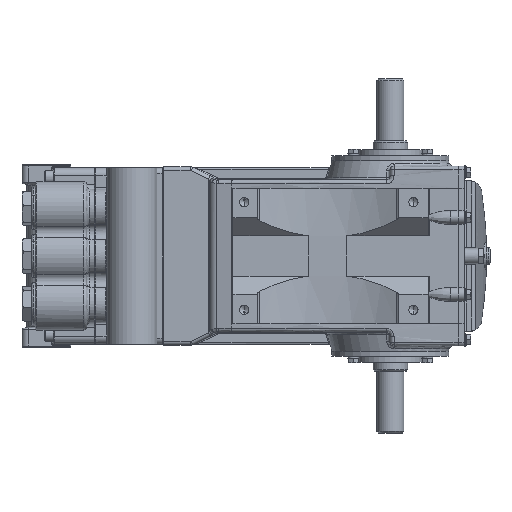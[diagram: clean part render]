
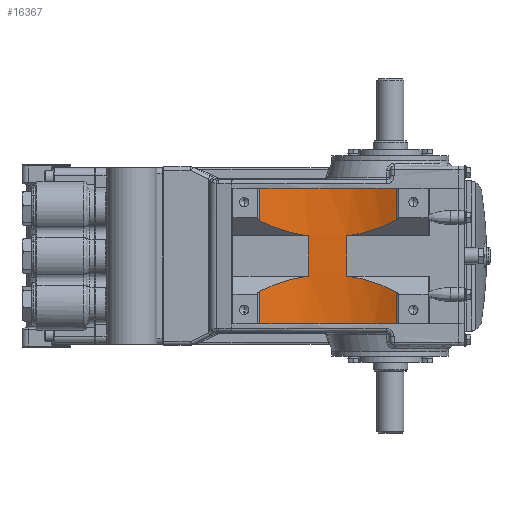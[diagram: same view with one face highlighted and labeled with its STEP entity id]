
A CAD part, front view. The second image highlights one B-rep face of the part: STEP entity #16367.
In plain terms, the highlighted cylindrical face has radius 191.521 mm (diameter 383.043 mm), a partial arc.
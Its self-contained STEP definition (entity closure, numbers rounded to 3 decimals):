
#202 = ORIENTED_EDGE ( 'NONE', *, *, #5419, .F. ) ;
#381 = CARTESIAN_POINT ( 'NONE',  ( -81.591, -285.873, 124.003 ) ) ;
#456 = DIRECTION ( 'NONE',  ( -1., 0., 0. ) ) ;
#1163 = CARTESIAN_POINT ( 'NONE',  ( 8.348, -116.783, -46.783 ) ) ;
#1552 = CARTESIAN_POINT ( 'NONE',  ( -169.896, -115.923, 45.924 ) ) ;
#3821 = EDGE_CURVE ( 'NONE', #107531, #55424, #8617, .T. ) ;
#5419 = EDGE_CURVE ( 'NONE', #11941, #97203, #48158, .T. ) ;
#6858 = DIRECTION ( 'NONE',  ( 0., 0., 1. ) ) ;
#7273 = CARTESIAN_POINT ( 'NONE',  ( -106.674, -96.001, -26.001 ) ) ;
#7440 = ORIENTED_EDGE ( 'NONE', *, *, #62608, .F. ) ;
#7911 = ORIENTED_EDGE ( 'NONE', *, *, #82183, .F. ) ;
#8617 = LINE ( 'NONE', #48282, #37949 ) ;
#11941 = VERTEX_POINT ( 'NONE', #105612 ) ;
#15319 = VECTOR ( 'NONE', #89338, 1000. ) ;
#16367 = ADVANCED_FACE ( 'NONE', ( #17785 ), #92592, .F. ) ;
#17300 = ORIENTED_EDGE ( 'NONE', *, *, #79868, .T. ) ;
#17351 = LINE ( 'NONE', #52910, #33530 ) ;
#17785 = FACE_OUTER_BOUND ( 'NONE', #87528, .T. ) ;
#20079 =( BOUNDED_CURVE ( )  B_SPLINE_CURVE ( 3, ( #92497, #26911, #45814, #7273 ),
 .UNSPECIFIED., .F., .F. ) 
 B_SPLINE_CURVE_WITH_KNOTS ( ( 4, 4 ),
 ( 2.662, 3.01 ),
 .UNSPECIFIED. ) 
 CURVE ( )  GEOMETRIC_REPRESENTATION_ITEM ( )  RATIONAL_B_SPLINE_CURVE ( ( 1., 0.99, 0.99, 1. ) ) 
 REPRESENTATION_ITEM ( '' )  );
#20093 = CARTESIAN_POINT ( 'NONE',  ( 8.348, -116.783, 87.998 ) ) ;
#20119 = CARTESIAN_POINT ( 'NONE',  ( 8.348, -116.783, 124.003 ) ) ;
#20237 = CARTESIAN_POINT ( 'NONE',  ( -56.508, -96.001, -26.001 ) ) ;
#20448 = AXIS2_PLACEMENT_3D ( 'NONE', #65301, #65696, #456 ) ;
#21317 =( BOUNDED_CURVE ( )  B_SPLINE_CURVE ( 3, ( #48360, #59005, #38912, #96613 ),
 .UNSPECIFIED., .F., .F. ) 
 B_SPLINE_CURVE_WITH_KNOTS ( ( 4, 4 ),
 ( 0.131, 0.489 ),
 .UNSPECIFIED. ) 
 CURVE ( )  GEOMETRIC_REPRESENTATION_ITEM ( )  RATIONAL_B_SPLINE_CURVE ( ( 1., 0.989, 0.989, 1. ) ) 
 REPRESENTATION_ITEM ( '' )  );
#21355 = ORIENTED_EDGE ( 'NONE', *, *, #45932, .F. ) ;
#26911 = CARTESIAN_POINT ( 'NONE',  ( -150.09, -105.632, -35.633 ) ) ;
#27097 = VERTEX_POINT ( 'NONE', #79705 ) ;
#29024 = CARTESIAN_POINT ( 'NONE',  ( -128.802, -98.924, 28.924 ) ) ;
#31525 = ORIENTED_EDGE ( 'NONE', *, *, #33381, .F. ) ;
#31788 = CARTESIAN_POINT ( 'NONE',  ( -56.508, -96.001, -26.001 ) ) ;
#32446 = CARTESIAN_POINT ( 'NONE',  ( -169.896, -115.923, 124.003 ) ) ;
#32579 = VERTEX_POINT ( 'NONE', #103659 ) ;
#33381 = EDGE_CURVE ( 'NONE', #97203, #27097, #20079, .T. ) ;
#33530 = VECTOR ( 'NONE', #62357, 1000. ) ;
#35514 = LINE ( 'NONE', #37800, #66380 ) ;
#36024 = EDGE_CURVE ( 'NONE', #27097, #73576, #35514, .T. ) ;
#36267 = AXIS2_PLACEMENT_3D ( 'NONE', #119398, #63254, #72682 ) ;
#37685 = ORIENTED_EDGE ( 'NONE', *, *, #3821, .F. ) ;
#37800 = CARTESIAN_POINT ( 'NONE',  ( -106.674, -96.001, 124.003 ) ) ;
#37949 = VECTOR ( 'NONE', #38830, 1000. ) ;
#38771 =( BOUNDED_CURVE ( )  B_SPLINE_CURVE ( 3, ( #111472, #29024, #84752, #1552 ),
 .UNSPECIFIED., .F., .F. ) 
 B_SPLINE_CURVE_WITH_KNOTS ( ( 4, 4 ),
 ( 0.131, 0.479 ),
 .UNSPECIFIED. ) 
 CURVE ( )  GEOMETRIC_REPRESENTATION_ITEM ( )  RATIONAL_B_SPLINE_CURVE ( ( 1., 0.99, 0.99, 1. ) ) 
 REPRESENTATION_ITEM ( '' )  );
#38830 = DIRECTION ( 'NONE',  ( 0., 0., -1. ) ) ;
#38912 = CARTESIAN_POINT ( 'NONE',  ( -11.91, -106.008, 36.008 ) ) ;
#41904 = ORIENTED_EDGE ( 'NONE', *, *, #116550, .F. ) ;
#42826 = CARTESIAN_POINT ( 'NONE',  ( -169.896, -115.923, 45.924 ) ) ;
#45814 = CARTESIAN_POINT ( 'NONE',  ( -128.802, -98.924, -28.924 ) ) ;
#45815 = CARTESIAN_POINT ( 'NONE',  ( -56.508, -96.001, 124.003 ) ) ;
#45932 = EDGE_CURVE ( 'NONE', #49794, #94411, #52274, .T. ) ;
#48158 = LINE ( 'NONE', #32446, #70114 ) ;
#48282 = CARTESIAN_POINT ( 'NONE',  ( 8.348, -116.783, 124.003 ) ) ;
#48360 = CARTESIAN_POINT ( 'NONE',  ( -56.508, -96.001, 26.001 ) ) ;
#49794 = VERTEX_POINT ( 'NONE', #67976 ) ;
#50680 = CARTESIAN_POINT ( 'NONE',  ( 8.348, -116.783, -46.783 ) ) ;
#52251 = EDGE_CURVE ( 'NONE', #94411, #68632, #93067, .T. ) ;
#52274 = CIRCLE ( 'NONE', #20448, 191.521 ) ;
#52910 = CARTESIAN_POINT ( 'NONE',  ( -169.896, -115.923, 124.003 ) ) ;
#55424 = VERTEX_POINT ( 'NONE', #114425 ) ;
#57201 = VERTEX_POINT ( 'NONE', #20237 ) ;
#59005 = CARTESIAN_POINT ( 'NONE',  ( -33.76, -99.006, 29.006 ) ) ;
#61034 = CIRCLE ( 'NONE', #36267, 191.521 ) ;
#61275 = CARTESIAN_POINT ( 'NONE',  ( 8.348, -116.783, 46.783 ) ) ;
#62357 = DIRECTION ( 'NONE',  ( 0., 0., 1. ) ) ;
#62608 = EDGE_CURVE ( 'NONE', #115498, #49794, #17351, .T. ) ;
#63254 = DIRECTION ( 'NONE',  ( 0., 0., 1. ) ) ;
#64828 = DIRECTION ( 'NONE',  ( -1., 0., 0. ) ) ;
#65301 = CARTESIAN_POINT ( 'NONE',  ( -81.591, -285.873, 87.998 ) ) ;
#65696 = DIRECTION ( 'NONE',  ( 0., 0., -1. ) ) ;
#66380 = VECTOR ( 'NONE', #75536, 1000. ) ;
#67301 = ORIENTED_EDGE ( 'NONE', *, *, #95590, .F. ) ;
#67976 = CARTESIAN_POINT ( 'NONE',  ( -169.896, -115.923, 87.998 ) ) ;
#68397 = ORIENTED_EDGE ( 'NONE', *, *, #52251, .F. ) ;
#68632 = VERTEX_POINT ( 'NONE', #61275 ) ;
#70114 = VECTOR ( 'NONE', #116096, 1000. ) ;
#70728 = CARTESIAN_POINT ( 'NONE',  ( -33.76, -99.006, -29.006 ) ) ;
#71733 = LINE ( 'NONE', #45815, #105535 ) ;
#72682 = DIRECTION ( 'NONE',  ( -1., 0., 0. ) ) ;
#73296 = ORIENTED_EDGE ( 'NONE', *, *, #105774, .T. ) ;
#73576 = VERTEX_POINT ( 'NONE', #100498 ) ;
#75536 = DIRECTION ( 'NONE',  ( 0., 0., 1. ) ) ;
#78728 = ORIENTED_EDGE ( 'NONE', *, *, #36024, .F. ) ;
#79705 = CARTESIAN_POINT ( 'NONE',  ( -106.674, -96.001, -26.001 ) ) ;
#79868 = EDGE_CURVE ( 'NONE', #32579, #68632, #21317, .T. ) ;
#82183 = EDGE_CURVE ( 'NONE', #55424, #11941, #61034, .T. ) ;
#83807 = CARTESIAN_POINT ( 'NONE',  ( -169.896, -115.923, -45.924 ) ) ;
#84752 = CARTESIAN_POINT ( 'NONE',  ( -150.09, -105.632, 35.633 ) ) ;
#87528 = EDGE_LOOP ( 'NONE', ( #17300, #68397, #21355, #7440, #67301, #78728, #31525, #202, #7911, #37685, #41904, #73296 ) ) ;
#89338 = DIRECTION ( 'NONE',  ( 0., 0., -1. ) ) ;
#92497 = CARTESIAN_POINT ( 'NONE',  ( -169.896, -115.923, -45.924 ) ) ;
#92592 = CYLINDRICAL_SURFACE ( 'NONE', #111926, 191.521 ) ;
#93067 = LINE ( 'NONE', #20119, #15319 ) ;
#94411 = VERTEX_POINT ( 'NONE', #20093 ) ;
#95590 = EDGE_CURVE ( 'NONE', #73576, #115498, #38771, .T. ) ;
#96613 = CARTESIAN_POINT ( 'NONE',  ( 8.348, -116.783, 46.783 ) ) ;
#97203 = VERTEX_POINT ( 'NONE', #83807 ) ;
#97748 = CARTESIAN_POINT ( 'NONE',  ( -11.91, -106.008, -36.008 ) ) ;
#100498 = CARTESIAN_POINT ( 'NONE',  ( -106.674, -96.001, 26.001 ) ) ;
#102921 =( BOUNDED_CURVE ( )  B_SPLINE_CURVE ( 3, ( #31788, #70728, #97748, #50680 ),
 .UNSPECIFIED., .F., .F. ) 
 B_SPLINE_CURVE_WITH_KNOTS ( ( 4, 4 ),
 ( 3.273, 3.63 ),
 .UNSPECIFIED. ) 
 CURVE ( )  GEOMETRIC_REPRESENTATION_ITEM ( )  RATIONAL_B_SPLINE_CURVE ( ( 1., 0.989, 0.989, 1. ) ) 
 REPRESENTATION_ITEM ( '' )  );
#103659 = CARTESIAN_POINT ( 'NONE',  ( -56.508, -96.001, 26.001 ) ) ;
#105535 = VECTOR ( 'NONE', #6858, 1000. ) ;
#105612 = CARTESIAN_POINT ( 'NONE',  ( -169.896, -115.923, -87.998 ) ) ;
#105774 = EDGE_CURVE ( 'NONE', #57201, #32579, #71733, .T. ) ;
#107531 = VERTEX_POINT ( 'NONE', #1163 ) ;
#111472 = CARTESIAN_POINT ( 'NONE',  ( -106.674, -96.001, 26.001 ) ) ;
#111926 = AXIS2_PLACEMENT_3D ( 'NONE', #381, #113149, #64828 ) ;
#113149 = DIRECTION ( 'NONE',  ( 0., 0., -1. ) ) ;
#114425 = CARTESIAN_POINT ( 'NONE',  ( 8.348, -116.783, -87.998 ) ) ;
#115498 = VERTEX_POINT ( 'NONE', #42826 ) ;
#116096 = DIRECTION ( 'NONE',  ( 0., 0., 1. ) ) ;
#116550 = EDGE_CURVE ( 'NONE', #57201, #107531, #102921, .T. ) ;
#119398 = CARTESIAN_POINT ( 'NONE',  ( -81.591, -285.873, -87.998 ) ) ;
